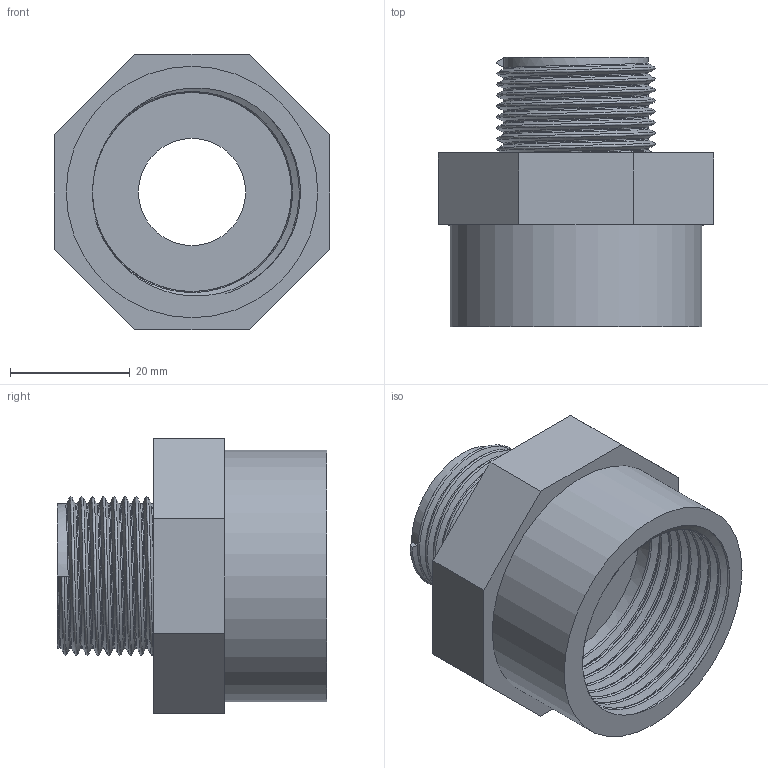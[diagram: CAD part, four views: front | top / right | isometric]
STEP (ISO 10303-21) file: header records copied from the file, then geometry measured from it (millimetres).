
FILE_DESCRIPTION(/* description */ ('PVC riduzione filettata BSP femmina-maschio (maggioratore filettato BSP M-F)'),/* implementation_level */ '2;1');
FILE_NAME(/* name */ 'C:\Users\POLYPIPE\Desktop\DATASET INVENTOR\LIBRERIA EFFAST\RACCORDI 3DxWEB\RER\3D_RERMGE\3D_RERMGE025D.stp',/* time_stamp */ '2018-01-19T16:39:53+01:00',/* author */ ('POLYPIPE'),/* organization */ ('Polypipe Italia s.r.l.'),/* preprocessor_version */ 'ST-DEVELOPER v16.1',/* originating_system */ 'Autodesk Inventor 2016',/* authorisation */ '');
FILE_SCHEMA (('CONFIG_CONTROL_DESIGN'));
Length unit declared in the file: millimetre
Products named in the file (1): 3D_RERMGE
Bounding box: 46 x 45 x 46 mm (x, y, z)
Volume: 27630.7 mm3; surface area: 14024.8 mm2
Topology: 1 solids, 1 shells, 29 faces, 69 edges, 45 vertices
Faces by surface type: plane 15, bspline 10, cylinder 4
Full cylindrical faces by diameter (mm): 17.9 x1, 24.117 x1, 33.249 x1, 42 x1
Entity records: 6983 total; most frequent: CARTESIAN_POINT 6368, ORIENTED_EDGE 128, DIRECTION 94, EDGE_CURVE 64, VERTEX_POINT 43, EDGE_LOOP 37, AXIS2_PLACEMENT_3D 32, LINE 30
